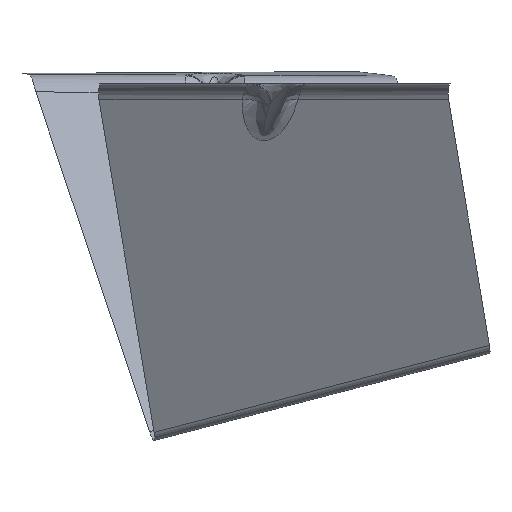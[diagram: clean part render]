
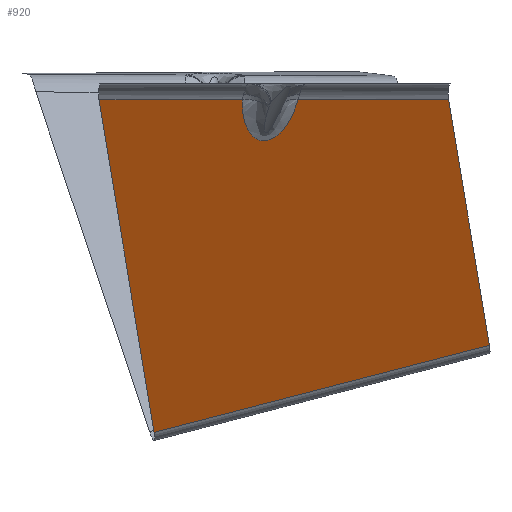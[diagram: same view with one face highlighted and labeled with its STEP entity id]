
A CAD part, left-side view. The second image highlights one B-rep face of the part: STEP entity #920.
In plain terms, the highlighted planar face has unit normal (-0.83, -0.249, -0.5).
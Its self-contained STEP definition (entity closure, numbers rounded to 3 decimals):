
#415=CARTESIAN_POINT('Vertex',(-107.78,9.359,-0.25)) ;
#678=CARTESIAN_POINT('Control Point',(-102.995,-6.591,-0.25)) ;
#679=CARTESIAN_POINT('Control Point',(-102.76,-6.464,-0.703)) ;
#680=CARTESIAN_POINT('Control Point',(-102.528,-6.328,-1.156)) ;
#681=CARTESIAN_POINT('Control Point',(-102.3,-6.18,-1.608)) ;
#682=CARTESIAN_POINT('Control Point',(-101.654,-5.726,-2.905)) ;
#683=CARTESIAN_POINT('Control Point',(-101.041,-5.18,-4.193)) ;
#684=CARTESIAN_POINT('Control Point',(-100.659,-4.781,-5.025)) ;
#685=CARTESIAN_POINT('Control Point',(-100.14,-4.143,-6.204)) ;
#686=CARTESIAN_POINT('Control Point',(-99.673,-3.385,-7.356)) ;
#687=CARTESIAN_POINT('Control Point',(-99.539,-3.146,-7.698)) ;
#688=CARTESIAN_POINT('Control Point',(-99.301,-2.679,-8.325)) ;
#689=CARTESIAN_POINT('Control Point',(-99.088,-2.162,-8.936)) ;
#690=CARTESIAN_POINT('Control Point',(-98.995,-1.912,-9.214)) ;
#691=CARTESIAN_POINT('Control Point',(-98.783,-1.259,-9.89)) ;
#692=CARTESIAN_POINT('Control Point',(-98.624,-0.515,-10.525)) ;
#693=CARTESIAN_POINT('Control Point',(-98.553,-0.03,-10.884)) ;
#694=CARTESIAN_POINT('Control Point',(-98.495,0.793,-11.391)) ;
#695=CARTESIAN_POINT('Control Point',(-98.558,1.737,-11.755)) ;
#696=CARTESIAN_POINT('Control Point',(-98.599,2.086,-11.861)) ;
#697=CARTESIAN_POINT('Control Point',(-98.699,2.664,-11.983)) ;
#698=CARTESIAN_POINT('Control Point',(-98.855,3.248,-12.015)) ;
#699=CARTESIAN_POINT('Control Point',(-98.921,3.467,-12.014)) ;
#700=CARTESIAN_POINT('Control Point',(-99.117,4.042,-11.976)) ;
#701=CARTESIAN_POINT('Control Point',(-99.355,4.58,-11.848)) ;
#702=CARTESIAN_POINT('Control Point',(-99.516,4.895,-11.737)) ;
#703=CARTESIAN_POINT('Control Point',(-99.978,5.698,-11.371)) ;
#704=CARTESIAN_POINT('Control Point',(-100.472,6.338,-10.87)) ;
#705=CARTESIAN_POINT('Control Point',(-100.789,6.692,-10.521)) ;
#706=CARTESIAN_POINT('Control Point',(-101.32,7.216,-9.901)) ;
#707=CARTESIAN_POINT('Control Point',(-101.845,7.638,-9.24)) ;
#708=CARTESIAN_POINT('Control Point',(-102.057,7.796,-8.965)) ;
#709=CARTESIAN_POINT('Control Point',(-102.531,8.12,-8.341)) ;
#710=CARTESIAN_POINT('Control Point',(-102.998,8.385,-7.699)) ;
#711=CARTESIAN_POINT('Control Point',(-103.254,8.517,-7.339)) ;
#712=CARTESIAN_POINT('Control Point',(-104.186,8.948,-6.008)) ;
#713=CARTESIAN_POINT('Control Point',(-105.088,9.208,-4.64)) ;
#714=CARTESIAN_POINT('Control Point',(-105.727,9.328,-3.64)) ;
#715=CARTESIAN_POINT('Control Point',(-106.522,9.404,-2.358)) ;
#716=CARTESIAN_POINT('Control Point',(-107.296,9.39,-1.069)) ;
#717=CARTESIAN_POINT('Control Point',(-107.458,9.383,-0.796)) ;
#718=CARTESIAN_POINT('Control Point',(-107.619,9.373,-0.523)) ;
#719=CARTESIAN_POINT('Control Point',(-107.78,9.359,-0.25)) ;
#720=CARTESIAN_POINT('Vertex',(-102.995,-6.591,-0.25)) ;
#874=CARTESIAN_POINT('Axis2P3D Location',(-47.48,-14.244,-88.541)) ;
#879=CARTESIAN_POINT('Line Origine',(-113.936,29.881,-0.25)) ;
#883=CARTESIAN_POINT('Vertex',(-120.093,50.404,-0.25)) ;
#886=CARTESIAN_POINT('Line Origine',(-89.073,42.517,-47.787)) ;
#890=CARTESIAN_POINT('Vertex',(-58.053,34.631,-95.324)) ;
#893=CARTESIAN_POINT('Line Origine',(-51.173,-13.305,-82.882)) ;
#897=CARTESIAN_POINT('Vertex',(-44.292,-61.241,-70.439)) ;
#900=CARTESIAN_POINT('Line Origine',(-67.192,-55.419,-35.345)) ;
#904=CARTESIAN_POINT('Vertex',(-90.093,-49.596,-0.25)) ;
#907=CARTESIAN_POINT('Line Origine',(-96.544,-28.094,-0.25)) ;
#875=DIRECTION('Axis2P3D Direction',(0.83,0.249,0.5)) ;
#876=DIRECTION('Axis2P3D XDirection',(0.541,-0.138,-0.83)) ;
#880=DIRECTION('Vector Direction',(0.287,-0.958,0.)) ;
#887=DIRECTION('Vector Direction',(0.541,-0.138,-0.83)) ;
#894=DIRECTION('Vector Direction',(0.138,-0.959,0.249)) ;
#901=DIRECTION('Vector Direction',(-0.541,0.138,0.83)) ;
#908=DIRECTION('Vector Direction',(0.287,-0.958,0.)) ;
#877=AXIS2_PLACEMENT_3D('Plane Axis2P3D',#874,#875,#876) ;
#913=ORIENTED_EDGE('',*,*,#722,.T.) ;
#914=ORIENTED_EDGE('',*,*,#885,.F.) ;
#915=ORIENTED_EDGE('',*,*,#892,.T.) ;
#916=ORIENTED_EDGE('',*,*,#899,.T.) ;
#917=ORIENTED_EDGE('',*,*,#906,.T.) ;
#918=ORIENTED_EDGE('',*,*,#911,.F.) ;
#881=VECTOR('Line Direction',#880,1.) ;
#888=VECTOR('Line Direction',#887,1.) ;
#895=VECTOR('Line Direction',#894,1.) ;
#902=VECTOR('Line Direction',#901,1.) ;
#909=VECTOR('Line Direction',#908,1.) ;
#920=ADVANCED_FACE('Extract.1',(#919),#878,.F.) ;
#677=B_SPLINE_CURVE_WITH_KNOTS('',5,(#678,#679,#680,#681,#682,#683,#684,#685,#686,#687,#688,#689,#690,#691,#692,#693,#694,#695,#696,#697,#698,#699,#700,#701,#702,#703,#704,#705,#706,#707,#708,#709,#710,#711,#712,#713,#714,#715,#716,#717,#718,#719),.UNSPECIFIED.,.F.,.U.,(6,3,3,3,3,3,3,3,3,3,3,3,3,6),(30.37,33.858,40.399,43.193,45.584,49.132,51.066,52.235,54.188,57.634,60.,62.941,70.784,72.885),.UNSPECIFIED.) ;
#722=EDGE_CURVE('',#721,#416,#677,.T.) ;
#885=EDGE_CURVE('',#884,#416,#882,.T.) ;
#892=EDGE_CURVE('',#884,#891,#889,.T.) ;
#899=EDGE_CURVE('',#891,#898,#896,.T.) ;
#906=EDGE_CURVE('',#898,#905,#903,.T.) ;
#911=EDGE_CURVE('',#721,#905,#910,.T.) ;
#912=EDGE_LOOP('',(#913,#914,#915,#916,#917,#918)) ;
#919=FACE_OUTER_BOUND('',#912,.T.) ;
#882=LINE('Line',#879,#881) ;
#889=LINE('Line',#886,#888) ;
#896=LINE('Line',#893,#895) ;
#903=LINE('Line',#900,#902) ;
#910=LINE('Line',#907,#909) ;
#878=PLANE('',#877) ;
#416=VERTEX_POINT('',#415) ;
#721=VERTEX_POINT('',#720) ;
#884=VERTEX_POINT('',#883) ;
#891=VERTEX_POINT('',#890) ;
#898=VERTEX_POINT('',#897) ;
#905=VERTEX_POINT('',#904) ;
